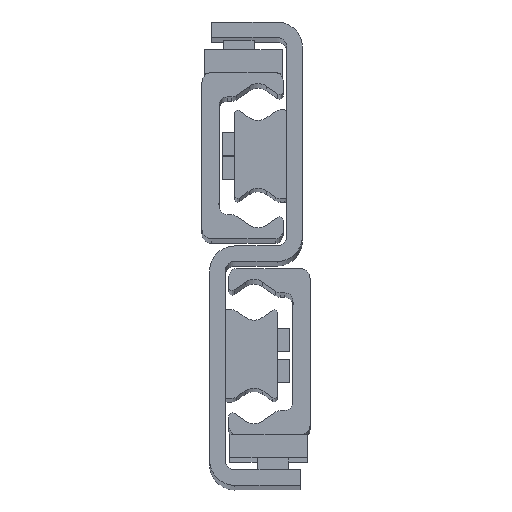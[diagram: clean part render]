
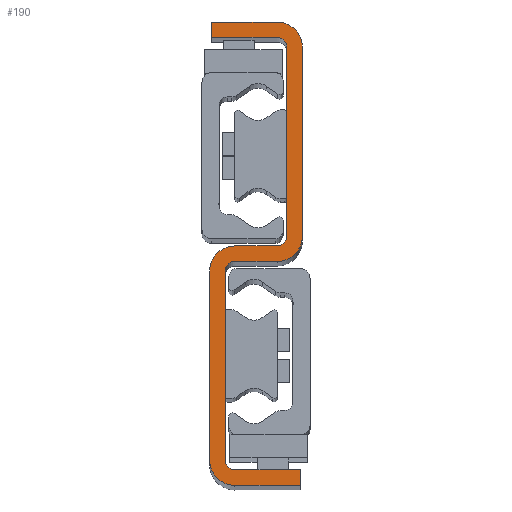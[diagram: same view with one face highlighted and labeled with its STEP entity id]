
A CAD part, top view. The second image highlights one B-rep face of the part: STEP entity #190.
In plain terms, the highlighted planar face has unit normal (0, 0, 1).
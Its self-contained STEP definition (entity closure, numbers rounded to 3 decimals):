
#190=ADVANCED_FACE('',(#585),#586,.T.);
#585=FACE_OUTER_BOUND('',#1179,.T.);
#586=PLANE('',#1180);
#1179=EDGE_LOOP('',(#2397,#2398,#2399,#2400,#2401,#2402,#2403,#2404,#2405,#2406,#2407,#2408,#2409,#2410,#2411,#2412,#2413,#2414,#2415,#2416));
#1180=AXIS2_PLACEMENT_3D('',#2417,#2418,#2419);
#2397=ORIENTED_EDGE('',*,*,#4033,.F.);
#2398=ORIENTED_EDGE('',*,*,#4091,.F.);
#2399=ORIENTED_EDGE('',*,*,#4088,.F.);
#2400=ORIENTED_EDGE('',*,*,#4085,.F.);
#2401=ORIENTED_EDGE('',*,*,#4082,.F.);
#2402=ORIENTED_EDGE('',*,*,#4079,.F.);
#2403=ORIENTED_EDGE('',*,*,#4076,.F.);
#2404=ORIENTED_EDGE('',*,*,#4073,.F.);
#2405=ORIENTED_EDGE('',*,*,#4070,.F.);
#2406=ORIENTED_EDGE('',*,*,#4067,.F.);
#2407=ORIENTED_EDGE('',*,*,#4064,.F.);
#2408=ORIENTED_EDGE('',*,*,#4061,.F.);
#2409=ORIENTED_EDGE('',*,*,#4058,.F.);
#2410=ORIENTED_EDGE('',*,*,#4055,.F.);
#2411=ORIENTED_EDGE('',*,*,#4052,.F.);
#2412=ORIENTED_EDGE('',*,*,#4049,.F.);
#2413=ORIENTED_EDGE('',*,*,#4046,.F.);
#2414=ORIENTED_EDGE('',*,*,#4043,.F.);
#2415=ORIENTED_EDGE('',*,*,#4040,.F.);
#2416=ORIENTED_EDGE('',*,*,#4037,.F.);
#2417=CARTESIAN_POINT('',(-14.,26.,1053.0));
#2418=DIRECTION('',(0.0,0.0,1.0));
#2419=DIRECTION('',(1.0,0.0,0.0));
#4033=EDGE_CURVE('',#4911,#4912,#4913,.T.);
#4037=EDGE_CURVE('',#4912,#4919,#4920,.T.);
#4040=EDGE_CURVE('',#4919,#4924,#4925,.T.);
#4043=EDGE_CURVE('',#4924,#4929,#4930,.T.);
#4046=EDGE_CURVE('',#4929,#4934,#4935,.T.);
#4049=EDGE_CURVE('',#4934,#4939,#4940,.T.);
#4052=EDGE_CURVE('',#4939,#4944,#4945,.T.);
#4055=EDGE_CURVE('',#4944,#4949,#4950,.T.);
#4058=EDGE_CURVE('',#4949,#4954,#4955,.T.);
#4061=EDGE_CURVE('',#4954,#4959,#4960,.T.);
#4064=EDGE_CURVE('',#4959,#4964,#4965,.T.);
#4067=EDGE_CURVE('',#4964,#4969,#4970,.T.);
#4070=EDGE_CURVE('',#4969,#4974,#4975,.T.);
#4073=EDGE_CURVE('',#4974,#4979,#4980,.T.);
#4076=EDGE_CURVE('',#4979,#4984,#4985,.T.);
#4079=EDGE_CURVE('',#4984,#4989,#4990,.T.);
#4082=EDGE_CURVE('',#4989,#4994,#4995,.T.);
#4085=EDGE_CURVE('',#4994,#4999,#5000,.T.);
#4088=EDGE_CURVE('',#4999,#5004,#5005,.T.);
#4091=EDGE_CURVE('',#5004,#4911,#5009,.T.);
#4911=VERTEX_POINT('',#6289);
#4912=VERTEX_POINT('',#6290);
#4913=LINE('',#6291,#6292);
#4919=VERTEX_POINT('',#6301);
#4920=CIRCLE('',#6302,2.5);
#4924=VERTEX_POINT('',#6307);
#4925=LINE('',#6308,#6309);
#4929=VERTEX_POINT('',#6315);
#4930=CIRCLE('',#6316,2.5);
#4934=VERTEX_POINT('',#6321);
#4935=LINE('',#6322,#6323);
#4939=VERTEX_POINT('',#6329);
#4940=LINE('',#6330,#6331);
#4944=VERTEX_POINT('',#6337);
#4945=LINE('',#6338,#6339);
#4949=VERTEX_POINT('',#6345);
#4950=CIRCLE('',#6346,6.5);
#4954=VERTEX_POINT('',#6351);
#4955=LINE('',#6352,#6353);
#4959=VERTEX_POINT('',#6359);
#4960=CIRCLE('',#6360,6.5);
#4964=VERTEX_POINT('',#6365);
#4965=LINE('',#6366,#6367);
#4969=VERTEX_POINT('',#6373);
#4970=CIRCLE('',#6374,2.5);
#4974=VERTEX_POINT('',#6379);
#4975=LINE('',#6380,#6381);
#4979=VERTEX_POINT('',#6387);
#4980=CIRCLE('',#6388,2.5);
#4984=VERTEX_POINT('',#6393);
#4985=LINE('',#6394,#6395);
#4989=VERTEX_POINT('',#6401);
#4990=LINE('',#6402,#6403);
#4994=VERTEX_POINT('',#6409);
#4995=LINE('',#6410,#6411);
#4999=VERTEX_POINT('',#6417);
#5000=CIRCLE('',#6418,6.5);
#5004=VERTEX_POINT('',#6423);
#5005=LINE('',#6424,#6425);
#5009=CIRCLE('',#6431,6.5);
#6289=CARTESIAN_POINT('',(-8.5,24.,1053.0));
#6290=CARTESIAN_POINT('',(-19.5,24.,1053.0));
#6291=CARTESIAN_POINT('',(-8.5,24.,1053.0));
#6292=VECTOR('',#7733,1.0);
#6301=CARTESIAN_POINT('',(-22.,21.5,1053.0));
#6302=AXIS2_PLACEMENT_3D('',#7737,#7738,#7739);
#6307=CARTESIAN_POINT('',(-22.,-27.5,1053.0));
#6308=CARTESIAN_POINT('',(-22.,-27.5,1053.0));
#6309=VECTOR('',#7744,1.0);
#6315=CARTESIAN_POINT('',(-19.5,-30.,1053.0));
#6316=AXIS2_PLACEMENT_3D('',#7747,#7748,#7749);
#6321=CARTESIAN_POINT('',(-2.5,-30.,1053.0));
#6322=CARTESIAN_POINT('',(-19.5,-30.,1053.0));
#6323=VECTOR('',#7754,1.0);
#6329=CARTESIAN_POINT('',(-2.5,-34.,1053.0));
#6330=CARTESIAN_POINT('',(-2.5,-34.,1053.0));
#6331=VECTOR('',#7757,1.0);
#6337=CARTESIAN_POINT('',(-19.5,-34.,1053.0));
#6338=CARTESIAN_POINT('',(-19.5,-34.,1053.0));
#6339=VECTOR('',#7760,1.0);
#6345=CARTESIAN_POINT('',(-26.,-27.5,1053.0));
#6346=AXIS2_PLACEMENT_3D('',#7763,#7764,#7765);
#6351=CARTESIAN_POINT('',(-26.,21.5,1053.0));
#6352=CARTESIAN_POINT('',(-26.,21.5,1053.0));
#6353=VECTOR('',#7770,1.0);
#6359=CARTESIAN_POINT('',(-19.5,28.,1053.0));
#6360=AXIS2_PLACEMENT_3D('',#7773,#7774,#7775);
#6365=CARTESIAN_POINT('',(-8.5,28.,1053.0));
#6366=CARTESIAN_POINT('',(-8.5,28.,1053.0));
#6367=VECTOR('',#7780,1.0);
#6373=CARTESIAN_POINT('',(-6.,30.5,1053.0));
#6374=AXIS2_PLACEMENT_3D('',#7783,#7784,#7785);
#6379=CARTESIAN_POINT('',(-6.,79.5,1053.0));
#6380=CARTESIAN_POINT('',(-6.,79.5,1053.0));
#6381=VECTOR('',#7790,1.0);
#6387=CARTESIAN_POINT('',(-8.5,82.,1053.0));
#6388=AXIS2_PLACEMENT_3D('',#7793,#7794,#7795);
#6393=CARTESIAN_POINT('',(-25.5,82.,1053.0));
#6394=CARTESIAN_POINT('',(-25.5,82.,1053.0));
#6395=VECTOR('',#7800,1.0);
#6401=CARTESIAN_POINT('',(-25.5,86.,1053.0));
#6402=CARTESIAN_POINT('',(-25.5,86.,1053.0));
#6403=VECTOR('',#7803,1.0);
#6409=CARTESIAN_POINT('',(-8.5,86.,1053.0));
#6410=CARTESIAN_POINT('',(-25.5,86.,1053.0));
#6411=VECTOR('',#7806,1.0);
#6417=CARTESIAN_POINT('',(-2.,79.5,1053.0));
#6418=AXIS2_PLACEMENT_3D('',#7809,#7810,#7811);
#6423=CARTESIAN_POINT('',(-2.,30.5,1053.0));
#6424=CARTESIAN_POINT('',(-2.,79.5,1053.0));
#6425=VECTOR('',#7816,1.0);
#6431=AXIS2_PLACEMENT_3D('',#7819,#7820,#7821);
#7733=DIRECTION('',(-1.0,0.,0.0));
#7737=CARTESIAN_POINT('',(-19.5,21.5,1053.0));
#7738=DIRECTION('',(0.0,0.0,1.0));
#7739=DIRECTION('',(1.0,0.0,0.0));
#7744=DIRECTION('',(-0.0,-1.0,-0.0));
#7747=CARTESIAN_POINT('',(-19.5,-27.5,1053.0));
#7748=DIRECTION('',(0.0,0.0,1.0));
#7749=DIRECTION('',(1.0,0.0,0.0));
#7754=DIRECTION('',(1.,0.,0.0));
#7757=DIRECTION('',(-0.0,-1.0,-0.0));
#7760=DIRECTION('',(-1.,0.,-0.0));
#7763=CARTESIAN_POINT('',(-19.5,-27.5,1053.0));
#7764=DIRECTION('',(0.0,0.0,-1.0));
#7765=DIRECTION('',(1.0,0.0,0.0));
#7770=DIRECTION('',(0.0,1.0,0.0));
#7773=CARTESIAN_POINT('',(-19.5,21.5,1053.0));
#7774=DIRECTION('',(0.0,0.0,-1.0));
#7775=DIRECTION('',(1.0,0.0,0.0));
#7780=DIRECTION('',(1.0,0.,0.0));
#7783=CARTESIAN_POINT('',(-8.5,30.5,1053.0));
#7784=DIRECTION('',(0.0,0.0,1.0));
#7785=DIRECTION('',(1.0,0.0,0.0));
#7790=DIRECTION('',(0.0,1.0,0.0));
#7793=CARTESIAN_POINT('',(-8.5,79.5,1053.0));
#7794=DIRECTION('',(0.0,0.0,1.0));
#7795=DIRECTION('',(1.0,0.0,0.0));
#7800=DIRECTION('',(-1.,0.,0.0));
#7803=DIRECTION('',(0.0,1.0,0.0));
#7806=DIRECTION('',(1.,0.,0.0));
#7809=CARTESIAN_POINT('',(-8.5,79.5,1053.0));
#7810=DIRECTION('',(0.0,0.0,-1.0));
#7811=DIRECTION('',(1.0,0.0,0.0));
#7816=DIRECTION('',(0.,-1.0,0.0));
#7819=CARTESIAN_POINT('',(-8.5,30.5,1053.0));
#7820=DIRECTION('',(0.0,0.0,-1.0));
#7821=DIRECTION('',(1.0,0.0,0.0));
